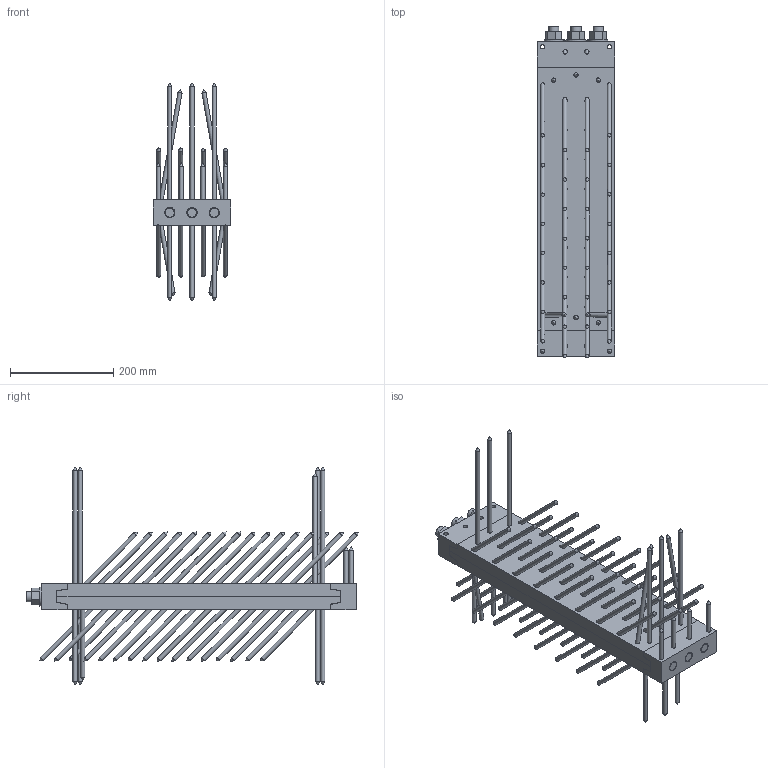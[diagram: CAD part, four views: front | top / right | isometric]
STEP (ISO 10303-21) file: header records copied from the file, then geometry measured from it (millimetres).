
FILE_DESCRIPTION(/* description */ ('Unknown'),/* implementation_level */ '2;1');
FILE_NAME(/* name */ 'MEGANT_610x150x50_Verdeckt',/* time_stamp */ '2023-03-16T08:59:12+01:00',/* author */ ('Unknown'),/* organization */ ('Unknown'),/* preprocessor_version */ 'ST-DEVELOPER v16.7',/* originating_system */ 'Solid Edge',/* authorisation */ 'Unknown');
FILE_SCHEMA (('AUTOMOTIVE_DESIGN {1 0 10303 214 3 1 1}'));
Length unit declared in the file: millimetre
Products named in the file (13): MEGANT_610x150x50_Verdeckt; Verbinderplatte_550x150x25_NT; SK_Knapp_Schraube_8x160; 2016-02-08_Verbinderplatte_150x25x550; SK_Schraube_8x240; Verbinderplatte_550x150x25_HT; Spannbacke_oben_150x50x50; Spannbacke_unten_150x50x50_4xSK8x120_NT; Spannbacke_unten_150x50x50; SK_Schraube_8x120; Beilagscheibe_M20; Mutter_M20; Gewindestange_M20_L640
Assembly tree (100 placements, depth 3):
  MEGANT_610x150x50_Verdeckt
    Verbinderplatte_550x150x25_NT
      SK_Knapp_Schraube_8x160  x32
      2016-02-08_Verbinderplatte_150x25x550
      SK_Schraube_8x240  x8
    Verbinderplatte_550x150x25_HT
      SK_Knapp_Schraube_8x160  x40
      2016-02-08_Verbinderplatte_150x25x550
    Spannbacke_oben_150x50x50
    Spannbacke_unten_150x50x50_4xSK8x120_NT
      Spannbacke_unten_150x50x50
      SK_Schraube_8x120  x4
    Beilagscheibe_M20  x3
    Mutter_M20  x3
    Gewindestange_M20_L640  x3
Bounding box: 150 x 643.23 x 422 mm (x, y, z)
Volume: 4775670.5 mm3; surface area: 1129749 mm2
Topology: 97 solids, 97 shells, 1483 faces, 3505 edges, 2255 vertices
Faces by surface type: plane 731, cylinder 306, cone 256, bspline 118, torus 72
Full cylindrical faces by diameter (mm): 8 x84, 8.5 x88, 15 x100, 17.294 x6, 20 x3, 21 x6, 37 x3
Entity records: 19137 total; most frequent: CARTESIAN_POINT 6151, ORIENTED_EDGE 2380, DIRECTION 2212, EDGE_CURVE 1190, FACE_BOUND 901, EDGE_LOOP 898, AXIS2_PLACEMENT_3D 880, VERTEX_POINT 877
